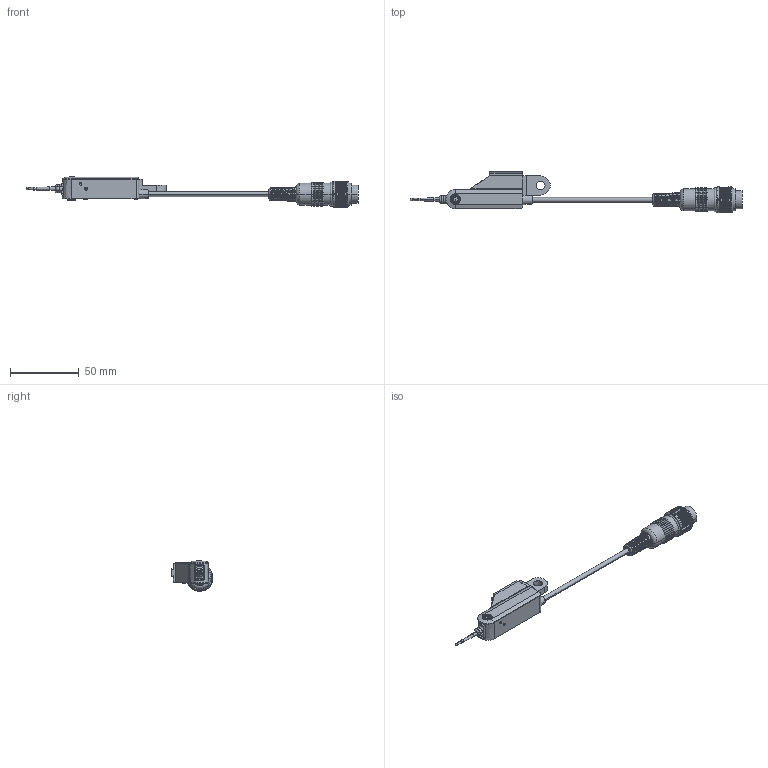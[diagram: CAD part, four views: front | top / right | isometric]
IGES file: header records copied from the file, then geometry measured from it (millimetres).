
Start section: Elysium IGES Interface
Global section: file name: 62HX:\users\kw_rdg\niwanoa\sagyou\01_製品データ\06_EM\519-327.igs; native system: Creo Elements/Direct Modeling 18.1C  24-Feb-2013; preprocessor: Creo Element/Direct IGES_3D V2.2; author: Unknown; organization: Unknown; date: 20170821.184230; units: millimetre
Bounding box: 242.3 x 30.5 x 22.11 mm (x, y, z)
Volume: 31009.9 mm3; surface area: 12505.9 mm2
Topology: 1 solids, 1 shells, 1846 faces, 4770 edges, 3044 vertices
Faces by surface type: bspline 1846
